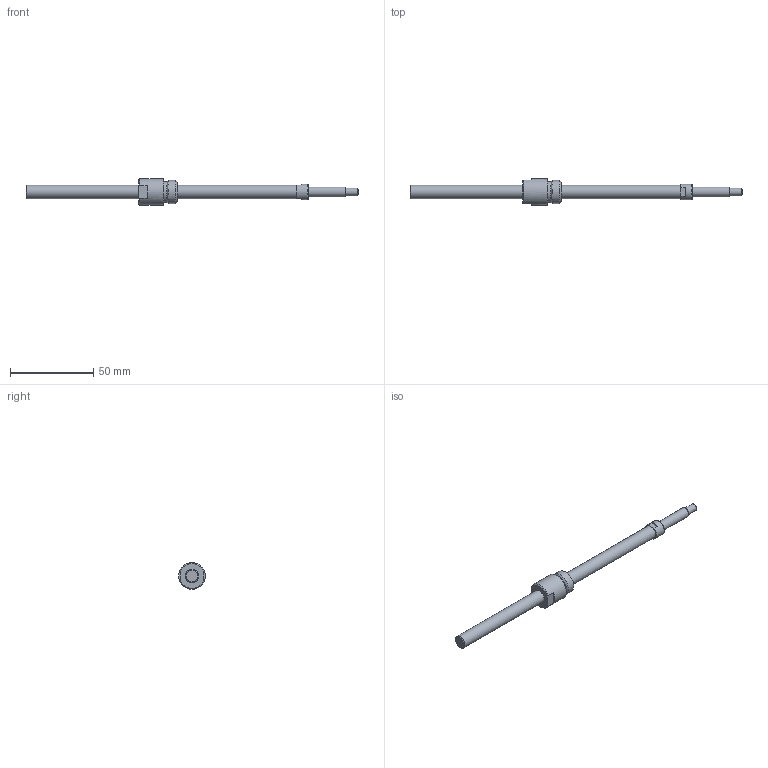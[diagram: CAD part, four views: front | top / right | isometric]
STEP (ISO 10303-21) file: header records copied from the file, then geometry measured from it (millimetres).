
FILE_DESCRIPTION(/* description */ ('STEP AP214'),/* implementation_level */ '2;1');
FILE_NAME(/* name */ 'NSG0802-159R200C5A0X(68)',/* time_stamp */ '2026-08-20T15:47:46+02:00',/* author */ ('License CC BY-ND 4.0'),/* organization */ ('CADENAS'),/* preprocessor_version */ 'ST-DEVELOPER v20',/* originating_system */ 'PARTsolutions',/* authorisation */ ' ');
FILE_SCHEMA (('AUTOMOTIVE_DESIGN {1 0 10303 214 3 1 1}'));
Length unit declared in the file: millimetre
Products named in the file (3): NSG0802-159R200C5A0X(68); NSG0802-159R200C3A_shaft; NSG0802_nut
Assembly tree (2 placements, depth 2):
  NSG0802-159R200C5A0X(68)
    NSG0802-159R200C3A_shaft
    NSG0802_nut
Bounding box: 200 x 16 x 16 mm (x, y, z)
Volume: 12360.9 mm3; surface area: 6925.9 mm2
Topology: 2 solids, 2 shells, 35 faces, 72 edges, 44 vertices
Faces by surface type: plane 17, cone 9, cylinder 8, torus 1
Full cylindrical faces by diameter (mm): 4.5 x1, 6 x1, 8 x2, 9.5 x1, 12.4 x1, 14 x1, 16 x1
Entity records: 907 total; most frequent: DIRECTION 158, CARTESIAN_POINT 146, ORIENTED_EDGE 108, AXIS2_PLACEMENT_3D 70, EDGE_LOOP 56, FACE_BOUND 56, EDGE_CURVE 54, VERTEX_POINT 42
